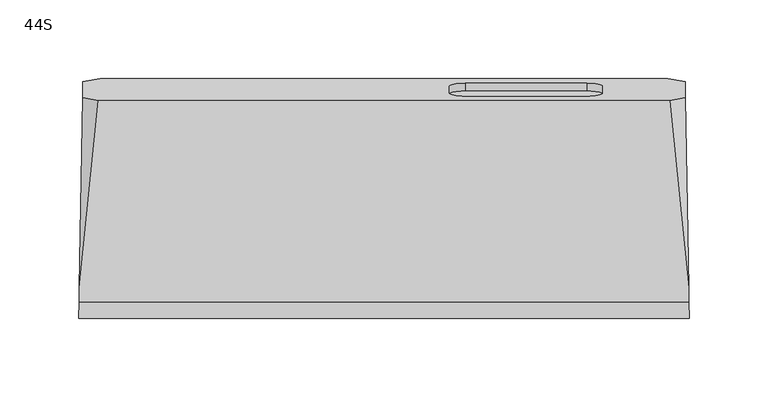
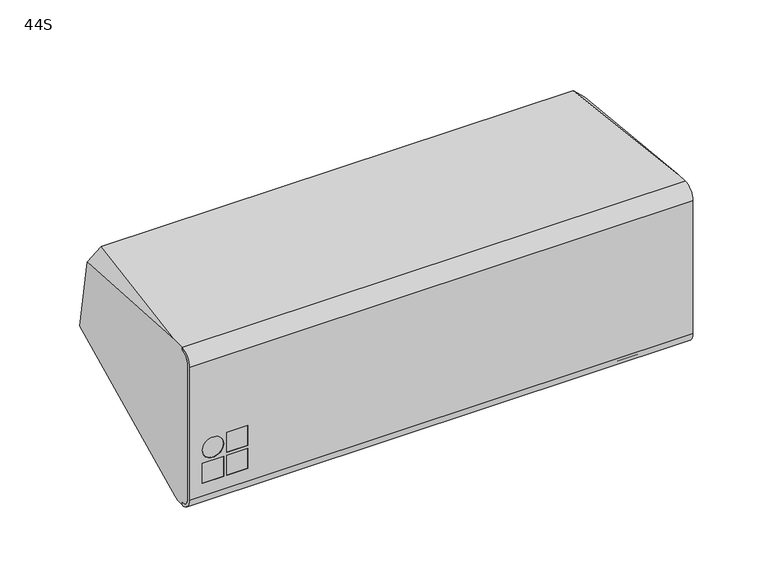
"""IFC4 building model written with IfcOpenShell, lengths in millimetres: proxy geometry, d&b xS-Series 44S Point Source : 44S."""

from ifc_helpers import new_model, si_unit, point, frame, frame_2d, origin, place, context, project, spatial, polyline, circle_curve, ellipse_curve, trimmed, segment, composite_curve, outline, extrude, source, transform, mapped, element, save
from ifc_brep_helpers import plane_surface, cylinder_surface, revolved_surface, advanced_brep


def proxy_44s_87138d56(model_context):
    return source(origin(), model_context, "Body", "SolidModel", [
        advanced_brep(
        [(193.4294708, -73.9650952, -54.0), (193.4294708, -73.9650952, 54.078429), (193.2924342, -66.0, 62.0435242), (193.2924342, -66.0, 64.0), (193.4644806, -76.0, 54.0), (193.4644806, -76.0, -54.0), (193.2918337, -65.9650952, -64.0349048), (193.2918337, -65.9650952, -62.0), (-193.4294708, -73.9650952, 54.078429), (-193.4294708, -73.9650952, -54.0), (-193.2918337, -65.9650952, -62.0), (-193.2918337, -65.9650952, -64.0349048), (-193.4644806, -76.0, -54.0), (-193.4644806, -76.0, 54.0), (-193.2924342, -66.0, 64.0), (-193.2924342, -66.0, 62.0435242), (-164.7978139, -73.9650952, -25.3333333), (-148.4644806, -73.9650952, -25.3333333), (-148.4644806, -73.9650952, -9.0), (-164.7978139, -73.9650952, -9.0), (-164.7978139, -73.9650952, -44.0), (-148.4644806, -73.9650952, -44.0), (-148.4644806, -73.9650952, -27.6666667), (-164.7978139, -73.9650952, -27.6666667), (-183.4644806, -73.9650952, -44.0), (-167.1311473, -73.9650952, -44.0), (-167.1311473, -73.9650952, -27.6666667), (-183.4644806, -73.9650952, -27.6666667), (-167.1311473, -73.9650952, -17.1666667), (-183.4644806, -73.9650952, -17.1666667), (-148.4644806, -76.0, -25.3333333), (-164.7978139, -76.0, -25.3333333), (-164.7978139, -76.0, -9.0), (-148.4644806, -76.0, -9.0), (-148.4644806, -76.0, -44.0), (-164.7978139, -76.0, -44.0), (-164.7978139, -76.0, -27.6666667), (-148.4644806, -76.0, -27.6666667), (-167.1311473, -76.0, -44.0), (-183.4644806, -76.0, -44.0), (-183.4644806, -76.0, -27.6666667), (-167.1311473, -76.0, -27.6666667), (-183.4644806, -76.0, -17.1666667), (-167.1311473, -76.0, -17.1666667)],
        [
            (0, 1),
            (1, 2, ellipse_curve(frame((193.2924342, -66.0, 54.078429), z_axis=(-0.9998520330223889, -0.017202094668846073, 0.0), x_axis=(-0.01720209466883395, 0.999852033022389, 0.0)), 7.9662739, 7.9650952)),
            (2, 3),
            (3, 4, ellipse_curve(frame((193.2924342, -66.0, 54.0), z_axis=(0.9998520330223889, 0.017202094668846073, 0.0), x_axis=(0.01720209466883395, -0.999852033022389, 0.0)), 10.0014799, 10.0)),
            (4, 5),
            (5, 6, ellipse_curve(frame((193.2918337, -65.9650952, -54.0), z_axis=(0.9998520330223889, 0.017202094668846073, 0.0), x_axis=(0.01720209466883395, -0.999852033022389, 0.0)), 10.0363899, 10.0349048)),
            (6, 7),
            (7, 0, ellipse_curve(frame((193.2918337, -65.9650952, -54.0), z_axis=(-0.9998520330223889, -0.017202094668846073, 0.0), x_axis=(-0.01720209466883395, 0.999852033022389, 0.0)), 8.0011839, 8.0)),
            (8, 9),
            (9, 10, ellipse_curve(frame((-193.2918337, -65.9650952, -54.0), z_axis=(0.999852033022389, -0.01720209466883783, 0.0), x_axis=(-0.017202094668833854, -0.999852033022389, 0.0)), 8.0011839, 8.0)),
            (10, 11),
            (11, 12, ellipse_curve(frame((-193.2918337, -65.9650952, -54.0), z_axis=(-0.999852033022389, 0.01720209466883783, 0.0), x_axis=(0.017202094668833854, 0.999852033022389, 0.0)), 10.0363899, 10.0349048)),
            (12, 13),
            (13, 14, ellipse_curve(frame((-193.2924342, -66.0, 54.0), z_axis=(-0.999852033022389, 0.01720209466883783, 0.0), x_axis=(0.017202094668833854, 0.999852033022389, 0.0)), 10.0014799, 10.0)),
            (14, 15),
            (15, 8, ellipse_curve(frame((-193.2924342, -66.0, 54.078429), z_axis=(0.999852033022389, -0.01720209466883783, 0.0), x_axis=(-0.017202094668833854, -0.999852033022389, 0.0)), 7.9662739, 7.9650952)),
            (0, 9),
            (8, 1),
            (16, 17),
            (17, 18),
            (18, 19),
            (19, 16),
            (20, 21),
            (21, 22),
            (22, 23),
            (23, 20),
            (24, 25),
            (25, 26),
            (26, 27),
            (27, 24),
            (28, 29, circle_curve(frame((-175.2978139, -73.9650952, -17.1666667), z_axis=(0.0, -1.0, 0.0), x_axis=(1.0, 0.0, 0.0)), 8.1666667)),
            (29, 28, circle_curve(frame((-175.2978139, -73.9650952, -17.1666667), z_axis=(0.0, -1.0, 0.0), x_axis=(1.0, 0.0, 0.0)), 8.1666667)),
            (15, 2),
            (14, 3),
            (13, 4),
            (12, 5),
            (30, 31),
            (31, 32),
            (32, 33),
            (33, 30),
            (34, 35),
            (35, 36),
            (36, 37),
            (37, 34),
            (38, 39),
            (39, 40),
            (40, 41),
            (41, 38),
            (42, 43, circle_curve(frame((-175.2978139, -76.0, -17.1666667), z_axis=(0.0, 1.0, 0.0), x_axis=(1.0, 0.0, 0.0)), 8.1666667)),
            (43, 42, circle_curve(frame((-175.2978139, -76.0, -17.1666667), z_axis=(0.0, 1.0, 0.0), x_axis=(1.0, 0.0, 0.0)), 8.1666667)),
            (11, 6),
            (10, 7),
            (16, 31),
            (30, 17),
            (19, 32),
            (18, 33),
            (20, 35),
            (34, 21),
            (23, 36),
            (22, 37),
            (24, 39),
            (38, 25),
            (27, 40),
            (26, 41),
            (28, 43),
            (42, 29),
        ],
        [
            plane_surface(frame((193.8309972, -97.3033587, -100.0), z_axis=(0.9998520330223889, 0.017202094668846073, 0.0), x_axis=(0.0, 0.0, 1.0))),
            plane_surface(frame((-190.7119283, 83.9889493, -100.0), z_axis=(-0.999852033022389, 0.01720209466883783, 0.0), x_axis=(0.0, 0.0, 1.0))),
            plane_surface(frame((202.5, -73.9650952, -54.0), z_axis=(0.0, 1.0, 0.0), x_axis=(-1.0, 0.0, 0.0))),
            revolved_surface(polyline([(-193.4294708, -66.0, 46.1133338), (193.4294708, -66.0, 46.1133338)]), (-202.5, -66.0, 54.078429), (-1.0, 0.0, 0.0)),
            plane_surface(frame((202.5, -66.0, 62.0435242), z_axis=(0.0, 1.0, 0.0), x_axis=(-1.0, 0.0, 0.0))),
            cylinder_surface(frame((-202.5, -66.0, 54.0), z_axis=(1.0, 0.0, 0.0), x_axis=(0.0, 0.0, -1.0)), 10.0),
            plane_surface(frame((202.5, -76.0, 54.0), z_axis=(0.0, -1.0, 0.0), x_axis=(-1.0, 0.0, 0.0))),
            cylinder_surface(frame((-202.5, -65.9650952, -54.0), z_axis=(1.0, 0.0, 0.0), x_axis=(0.0, 0.0, -1.0)), 10.0349048),
            plane_surface(frame((202.5, -65.9650952, -64.0349048), z_axis=(0.0, 1.0, 0.0), x_axis=(-1.0, 0.0, 0.0))),
            revolved_surface(polyline([(-193.42947082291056, -65.9650952, -62.0), (193.42947082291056, -65.9650952, -62.0)]), (-202.5, -65.9650952, -54.0), (-1.0, 0.0, 0.0)),
            plane_surface(frame((-164.7978139, -76.0, -25.3333333), z_axis=(0.0, 0.0, 1.0), x_axis=(0.0, 1.0, 0.0))),
            plane_surface(frame((-164.7978139, -76.0, -9.0), z_axis=(1.0, 0.0, 0.0), x_axis=(0.0, 1.0, 0.0))),
            plane_surface(frame((-148.4644806, -76.0, -9.0), z_axis=(0.0, 0.0, -1.0), x_axis=(0.0, 1.0, 0.0))),
            plane_surface(frame((-148.4644806, -76.0, -25.3333333), z_axis=(-1.0, 0.0, 0.0), x_axis=(0.0, 1.0, 0.0))),
            plane_surface(frame((-164.7978139, -76.0, -44.0), z_axis=(0.0, 0.0, 1.0), x_axis=(0.0, 1.0, 0.0))),
            plane_surface(frame((-164.7978139, -76.0, -27.6666667), z_axis=(1.0, 0.0, 0.0), x_axis=(0.0, 1.0, 0.0))),
            plane_surface(frame((-148.4644806, -76.0, -27.6666667), z_axis=(0.0, 0.0, -1.0), x_axis=(0.0, 1.0, 0.0))),
            plane_surface(frame((-148.4644806, -76.0, -44.0), z_axis=(-1.0, 0.0, 0.0), x_axis=(0.0, 1.0, 0.0))),
            plane_surface(frame((-183.4644806, -76.0, -44.0), z_axis=(0.0, 0.0, 1.0), x_axis=(0.0, 1.0, 0.0))),
            plane_surface(frame((-183.4644806, -76.0, -27.6666667), z_axis=(1.0, 0.0, 0.0), x_axis=(0.0, 1.0, 0.0))),
            plane_surface(frame((-167.1311473, -76.0, -27.6666667), z_axis=(0.0, 0.0, -1.0), x_axis=(0.0, 1.0, 0.0))),
            plane_surface(frame((-167.1311473, -76.0, -44.0), z_axis=(-1.0, 0.0, 0.0), x_axis=(0.0, 1.0, 0.0))),
            revolved_surface(polyline([(-167.1311472, -76.0, -17.1666667), (-167.1311472, -73.9650952, -17.1666667)]), (-175.2978139, -15.7477083, -17.1666667), (0.0, -1.0, 0.0)),
        ],
        [
            (0, [[1, 2, 3, 4, 5, 6, 7, 8]]),
            (1, [[9, 10, 11, 12, 13, 14, 15, 16]]),
            (2, [[17, -9, 18, -1], [19, 20, 21, 22], [23, 24, 25, 26], [27, 28, 29, 30], [31, 32]]),
            (3, [[-18, -16, 33, -2]]),
            (4, [[-33, -15, 34, -3]]),
            (5, [[-34, -14, 35, -4]]),
            (6, [[-35, -13, 36, -5], [37, 38, 39, 40], [41, 42, 43, 44], [45, 46, 47, 48], [49, 50]]),
            (7, [[-36, -12, 51, -6]]),
            (8, [[-51, -11, 52, -7]]),
            (9, [[-17, -8, -52, -10]]),
            (10, [[53, -37, 54, -19]]),
            (11, [[-53, -22, 55, -38]]),
            (12, [[-55, -21, 56, -39]]),
            (13, [[-56, -20, -54, -40]]),
            (14, [[57, -41, 58, -23]]),
            (15, [[-57, -26, 59, -42]]),
            (16, [[-59, -25, 60, -43]]),
            (17, [[-60, -24, -58, -44]]),
            (18, [[61, -45, 62, -27]]),
            (19, [[-61, -30, 63, -46]]),
            (20, [[-63, -29, 64, -47]]),
            (21, [[-64, -28, -62, -48]]),
            (22, [[65, -49, 66, -31]]),
            (22, [[-65, -32, -66, -50]]),
        ],
    ),
        extrude(outline(polyline([(-148.4644806, -76.0), (-164.7978139, -76.0), (-164.7978139, -71.0), (-148.4644806, -71.0), (-148.4644806, -76.0)])), frame((0.0, 0.0, -25.3333333), z_axis=(0.0, 0.0, 1.0), x_axis=(1.0, 0.0, 0.0)), (0.0, 0.0, 1.0), 16.3333333),
        extrude(outline(polyline([(-148.4644806, -76.0), (-164.7978139, -76.0), (-164.7978139, -71.0), (-148.4644806, -71.0), (-148.4644806, -76.0)])), frame((0.0, 0.0, -44.0), z_axis=(0.0, 0.0, 1.0), x_axis=(1.0, 0.0, 0.0)), (0.0, 0.0, 1.0), 16.3333333),
        extrude(outline(polyline([(-167.1311473, -76.0), (-183.4644806, -76.0), (-183.4644806, -71.0), (-167.1311473, -71.0), (-167.1311473, -76.0)])), frame((0.0, 0.0, -44.0), z_axis=(0.0, 0.0, 1.0), x_axis=(1.0, 0.0, 0.0)), (0.0, 0.0, 1.0), 16.3333333),
        extrude(outline(composite_curve([segment(trimmed(circle_curve(frame_2d((-17.1666667, -175.2978139)), 8.1666667), [point((-17.1666667, -183.4644806))], [point((-17.1666667, -167.1311473))], False, "CARTESIAN"), True, "CONTINUOUS"), segment(trimmed(circle_curve(frame_2d((-17.1666667, -175.2978139)), 8.1666667), [point((-17.1666667, -167.1311473))], [point((-17.1666667, -183.4644806))], False, "CARTESIAN"), True, "CONTINUOUS")], self_intersect=False)), frame((0.0, -76.0, 0.0), z_axis=(0.0, 1.0, 0.0), x_axis=(0.0, 0.0, 1.0)), (0.0, 0.0, 1.0), 5.0),
        advanced_brep(
        [(193.2924342, -66.0, 64.0), (193.2924342, -66.0, 62.0435242), (193.4294708, -73.9650952, 54.078429), (193.4294708, -73.9650952, -54.0), (193.2918337, -65.9650952, -62.0), (193.2918337, -65.9650952, -64.0), (193.1898069, -60.0349048, -64.0), (193.132384, -56.6972655, -62.7855103), (190.8800877, 74.2148737, -4.3760941), (191.0574064, 63.9084293, 54.074657), (193.132384, -56.6972655, 64.0), (-193.2924342, -66.0, 62.0435242), (-193.2924342, -66.0, 64.0), (-193.132384, -56.6972655, 64.0), (-191.0574064, 63.9084293, 54.074657), (-190.8800877, 74.2148737, -4.3760941), (-193.132384, -56.6972655, -62.7855103), (-193.1898069, -60.0349048, -64.0), (-193.2918337, -65.9650952, -64.0), (-193.2918337, -65.9650952, -62.0), (-193.4294708, -73.9650952, -54.0), (-193.4294708, -73.9650952, 54.078429), (181.3061997, 62.1583235, 64.0), (-181.3061997, 62.1583235, 64.0), (-179.9289467, 76.0, -14.5000481), (179.9289467, 76.0, -14.5000481), (138.5, 71.3365881, 11.9474751), (138.5, 66.8217355, 37.5524767), (128.5, 65.0852537, 47.4005542), (51.5, 65.0852537, 47.4005542), (41.5, 66.8217355, 37.5524767), (41.5, 71.3365881, 11.9474751), (51.5, 73.0730698, 2.0993976), (128.5, 73.0730698, 2.0993976), (138.5, 66.4125493, 11.0792343), (128.5, 68.1490311, 1.2311567), (51.5, 68.1490311, 1.2311567), (41.5, 66.4125493, 11.0792343), (41.5, 61.8976967, 36.6842358), (51.5, 60.1612149, 46.5323134), (128.5, 60.1612149, 46.5323134), (138.5, 61.8976967, 36.6842358)],
        [
            (0, 1),
            (1, 2, ellipse_curve(frame((193.2924342, -66.0, 54.078429), z_axis=(0.9998520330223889, 0.017202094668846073, 0.0), x_axis=(0.01720209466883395, -0.999852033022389, 0.0)), 7.9662739, 7.9650952)),
            (2, 3),
            (3, 4, ellipse_curve(frame((193.2918337, -65.9650952, -54.0), z_axis=(0.9998520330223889, 0.017202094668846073, 0.0), x_axis=(0.01720209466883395, -0.999852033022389, 0.0)), 8.0011839, 8.0)),
            (4, 5),
            (5, 6),
            (6, 7),
            (7, 8),
            (8, 9),
            (9, 10),
            (10, 0),
            (11, 12),
            (12, 13),
            (13, 14),
            (14, 15),
            (15, 16),
            (16, 17),
            (17, 18),
            (18, 19),
            (19, 20, ellipse_curve(frame((-193.2918337, -65.9650952, -54.0), z_axis=(-0.999852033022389, 0.01720209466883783, 0.0), x_axis=(0.017202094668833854, 0.999852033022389, 0.0)), 8.0011839, 8.0)),
            (20, 21),
            (21, 11, ellipse_curve(frame((-193.2924342, -66.0, 54.078429), z_axis=(-0.999852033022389, 0.01720209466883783, 0.0), x_axis=(0.017202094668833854, 0.999852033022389, 0.0)), 7.9662739, 7.9650952)),
            (0, 12),
            (11, 1),
            (21, 2),
            (20, 3),
            (19, 4),
            (18, 5),
            (17, 6),
            (10, 22),
            (22, 23),
            (23, 13),
            (16, 24),
            (24, 25),
            (25, 7),
            (9, 22),
            (23, 14),
            (15, 24),
            (25, 8),
            (26, 27),
            (27, 28, circle_curve(frame((128.5, 66.8217355, 37.5524767), z_axis=(0.0, -0.9848077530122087, -0.17364817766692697), x_axis=(0.0, 0.17364817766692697, -0.9848077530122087)), 10.0)),
            (28, 29),
            (29, 30, circle_curve(frame((51.5, 66.8217355, 37.5524767), z_axis=(0.0, -0.9848077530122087, -0.17364817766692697), x_axis=(0.0, 0.17364817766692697, -0.9848077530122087)), 10.0)),
            (30, 31),
            (31, 32, circle_curve(frame((51.5, 71.3365881, 11.9474751), z_axis=(0.0, -0.9848077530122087, -0.17364817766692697), x_axis=(0.0, 0.17364817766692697, -0.9848077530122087)), 10.0)),
            (32, 33),
            (33, 26, circle_curve(frame((128.5, 71.3365881, 11.9474751), z_axis=(0.0, -0.9848077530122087, -0.17364817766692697), x_axis=(0.0, 0.17364817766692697, -0.9848077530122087)), 10.0)),
            (34, 35, circle_curve(frame((128.5, 66.4125493, 11.0792343), z_axis=(0.0, 0.9848077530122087, 0.17364817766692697), x_axis=(0.0, 0.17364817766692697, -0.9848077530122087)), 10.0)),
            (35, 36),
            (36, 37, circle_curve(frame((51.5, 66.4125493, 11.0792343), z_axis=(0.0, 0.9848077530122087, 0.17364817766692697), x_axis=(0.0, 0.17364817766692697, -0.9848077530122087)), 10.0)),
            (37, 38),
            (38, 39, circle_curve(frame((51.5, 61.8976967, 36.6842358), z_axis=(0.0, 0.9848077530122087, 0.17364817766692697), x_axis=(0.0, 0.17364817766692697, -0.9848077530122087)), 10.0)),
            (39, 40),
            (40, 41, circle_curve(frame((128.5, 61.8976967, 36.6842358), z_axis=(0.0, 0.9848077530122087, 0.17364817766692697), x_axis=(0.0, 0.17364817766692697, -0.9848077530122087)), 10.0)),
            (41, 34),
            (41, 27),
            (26, 34),
            (40, 28),
            (39, 29),
            (38, 30),
            (37, 31),
            (36, 32),
            (35, 33),
        ],
        [
            plane_surface(frame((193.8309972, -97.3033587, -100.0), z_axis=(0.9998520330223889, 0.017202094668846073, 0.0), x_axis=(0.0, 0.0, 1.0))),
            plane_surface(frame((-190.7119283, 83.9889493, -100.0), z_axis=(-0.999852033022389, 0.01720209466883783, 0.0), x_axis=(0.0, 0.0, 1.0))),
            plane_surface(frame((207.1452552, -66.0, 64.0), z_axis=(0.0, -1.0, 0.0), x_axis=(-1.0, 0.0, 0.0))),
            cylinder_surface(frame((-207.1452552, -66.0, 54.078429), z_axis=(1.0, 0.0, 0.0), x_axis=(0.0, 0.0, 1.0)), 7.9650952),
            plane_surface(frame((207.1452552, -73.9650952, 54.078429), z_axis=(0.0, -1.0, 0.0), x_axis=(-1.0, 0.0, 0.0))),
            cylinder_surface(frame((-207.1452552, -65.9650952, -54.0), z_axis=(1.0, 0.0, 0.0), x_axis=(0.0, 0.0, 1.0)), 8.0),
            plane_surface(frame((207.1452552, -65.9650952, -62.0), z_axis=(0.0, -1.0, 0.0), x_axis=(-1.0, 0.0, 0.0))),
            plane_surface(frame((207.1452552, -65.9650952, -64.0), z_axis=(0.0, 0.0, -1.0), x_axis=(-1.0, 0.0, 0.0))),
            plane_surface(frame((207.1452552, -60.0349048, 64.0), z_axis=(0.0, 0.0, 1.0), x_axis=(-1.0, 0.0, 0.0))),
            plane_surface(frame((0.0, 76.0, -14.5000481), z_axis=(0.0, 0.34194264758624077, -0.939720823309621), x_axis=(1.0, 0.0, 0.0))),
            plane_surface(frame((186.6967137, 76.0, 57.232233), z_axis=(0.705363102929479, 0.07018394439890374, 0.7053631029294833), x_axis=(-0.7071067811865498, 0.0, 0.7071067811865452))),
            plane_surface(frame((-186.6967137, 76.0, 57.232233), z_axis=(-0.7053631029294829, 0.07018394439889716, 0.70536310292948), x_axis=(-0.7071067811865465, 0.0, -0.7071067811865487))),
            plane_surface(frame((-186.6967137, 76.0, -7.7322812), z_axis=(-0.6719558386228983, 0.31136907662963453, -0.6719558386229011), x_axis=(0.7071067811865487, 0.0, -0.7071067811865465))),
            plane_surface(frame((186.6967137, 76.0, -7.7322812), z_axis=(0.6719558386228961, 0.31136907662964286, -0.6719558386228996), x_axis=(0.7071067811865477, 0.0, 0.7071067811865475))),
            plane_surface(frame((250.0, 59.1151772, 81.2585403), z_axis=(0.0, 0.9848077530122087, 0.17364817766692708), x_axis=(-1.0, 0.0, 0.0))),
            plane_surface(frame((138.5, 57.2342848, 63.1317591), z_axis=(0.0, 0.9848077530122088, 0.173648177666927), x_axis=(0.0, -0.173648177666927, 0.9848077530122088))),
            plane_surface(frame((138.5, 66.4125493, 11.0792343), z_axis=(-1.0, 0.0, 0.0), x_axis=(0.0, 0.9848077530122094, 0.1736481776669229))),
            revolved_surface(polyline([(128.5, 63.63417846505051, 26.836158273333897), (128.5, 68.55821727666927, 27.704399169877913)]), (128.5, 66.8217355, 37.5524767), (0.0, -0.9848077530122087, -0.17364817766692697)),
            plane_surface(frame((128.5, 60.1612149, 46.5323134), z_axis=(0.0, 0.1736481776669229, -0.9848077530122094), x_axis=(0.0, 0.9848077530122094, 0.1736481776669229))),
            revolved_surface(polyline([(51.5, 63.63417846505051, 26.836158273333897), (51.5, 68.55821727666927, 27.704399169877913)]), (51.5, 66.8217355, 37.5524767), (0.0, -0.9848077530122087, -0.17364817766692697)),
            plane_surface(frame((41.5, 61.8976967, 36.6842358), z_axis=(1.0, 0.0, 0.0), x_axis=(0.0, 0.9848077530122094, 0.1736481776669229))),
            revolved_surface(polyline([(51.5, 68.1490310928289, 1.2311566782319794), (51.5, 73.07306987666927, 2.0993975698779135)]), (51.5, 71.3365881, 11.9474751), (0.0, -0.9848077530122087, -0.17364817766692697)),
            plane_surface(frame((51.5, 68.1490311, 1.2311567), z_axis=(0.0, -0.1736481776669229, 0.9848077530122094), x_axis=(0.0, 0.9848077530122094, 0.1736481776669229))),
            revolved_surface(polyline([(128.5, 68.1490310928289, 1.2311566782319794), (128.5, 73.07306987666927, 2.0993975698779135)]), (128.5, 71.3365881, 11.9474751), (0.0, -0.9848077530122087, -0.17364817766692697)),
        ],
        [
            (0, [[1, 2, 3, 4, 5, 6, 7, 8, 9, 10, 11]]),
            (1, [[12, 13, 14, 15, 16, 17, 18, 19, 20, 21, 22]]),
            (2, [[23, -12, 24, -1]]),
            (3, [[-24, -22, 25, -2]]),
            (4, [[-25, -21, 26, -3]]),
            (5, [[-26, -20, 27, -4]]),
            (6, [[-27, -19, 28, -5]]),
            (7, [[-28, -18, 29, -6]]),
            (8, [[-23, -11, 30, 31, 32, -13]]),
            (9, [[-29, -17, 33, 34, 35, -7]]),
            (10, [[-30, -10, 36]]),
            (11, [[-32, 37, -14]]),
            (12, [[-33, -16, 38]]),
            (13, [[-35, 39, -8]]),
            (14, [[-31, -36, -9, -39, -34, -38, -15, -37], [40, 41, 42, 43, 44, 45, 46, 47]]),
            (15, [[48, 49, 50, 51, 52, 53, 54, 55]]),
            (16, [[-55, 56, -40, 57]]),
            (17, [[-54, 58, -41, -56]]),
            (18, [[-53, 59, -42, -58]]),
            (19, [[-52, 60, -43, -59]]),
            (20, [[-51, 61, -44, -60]]),
            (21, [[-50, 62, -45, -61]]),
            (22, [[-49, 63, -46, -62]]),
            (23, [[-48, -57, -47, -63]]),
        ],
    ),
    ])


if __name__ == "__main__":
    model = new_model("IFC4")
    model_context = context("Model", 3, world=origin())
    ifc_project = project(units=[si_unit("LENGTHUNIT", "METRE", prefix="MILLI")], contexts=[model_context])
    site = spatial("IfcSite", under=ifc_project)
    building = spatial("IfcBuilding", under=site)
    placement = place(None, origin())
    proxy_44s_shape = proxy_44s_87138d56(model_context)
    element("IfcBuildingElementProxy", 1, Name="d&b xS-Series 44S Point Source : 44S", ObjectType="d&b xS-Series 44S Point Source : 44S", at=placement, inside=building, context=model_context, shape_type="MappedRepresentation", body=[
        mapped(proxy_44s_shape, transform((0.0, 0.0, 0.0), x_axis=(1.0, 0.0, 0.0), y_axis=(0.0, 1.0, 0.0), z_axis=(0.0, 0.0, 1.0))),
    ])
    save(model, "model.ifc")
